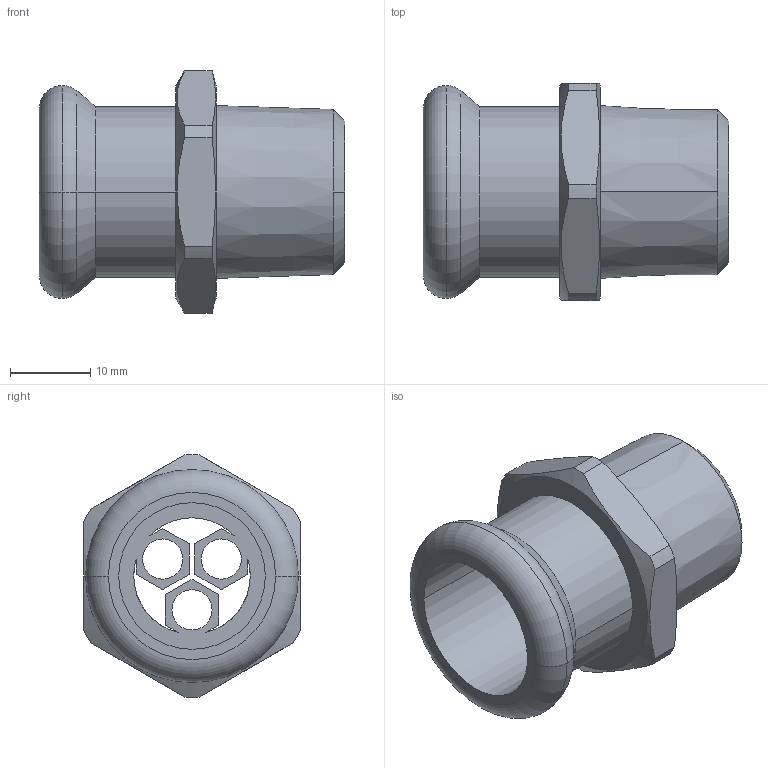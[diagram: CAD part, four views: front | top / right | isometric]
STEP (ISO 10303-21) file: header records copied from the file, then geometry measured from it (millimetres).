
FILE_DESCRIPTION(('OneSpaceDesigner STEP Export'),'2;1');
FILE_NAME('R2705 18xR1-2.stp','2010-06-09T10:35:17',(''),(''),'OneSpace Designer STEP processor for AP214 (Solid Model)','OneSpace Modeling 15.00A 14-Mar-2007 (C) CoCreate Software GmbH','');
FILE_SCHEMA(('AUTOMOTIVE_DESIGN { 1 0 10303 214 1 1 1 1 }'));
Length unit declared in the file: millimetre
Products named in the file (2): R2705_18xR1-2
Assembly tree (1 placements, depth 2):
  R2705_18xR1-2
    R2705_18xR1-2
Bounding box: 38 x 27 x 30.19 mm (x, y, z)
Volume: 7416 mm3; surface area: 5933.7 mm2
Topology: 1 solids, 1 shells, 64 faces, 173 edges, 114 vertices
Faces by surface type: plane 32, cylinder 18, cone 10, torus 4
Entity records: 2602 total; most frequent: CARTESIAN_POINT 1063, ORIENTED_EDGE 346, DIRECTION 263, EDGE_CURVE 173, VERTEX_POINT 114, VECTOR 91, LINE 91, AXIS2_PLACEMENT_3D 86
